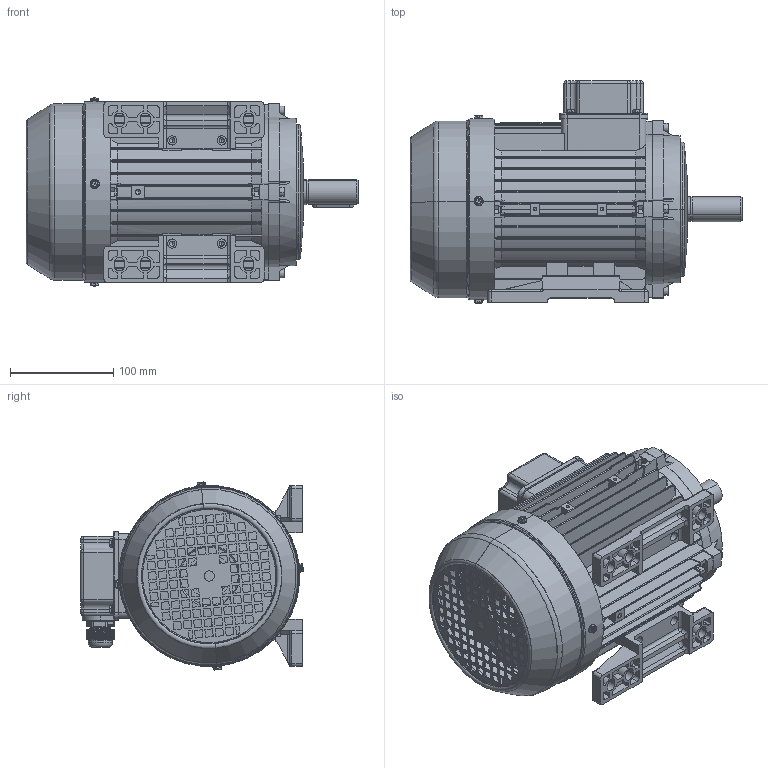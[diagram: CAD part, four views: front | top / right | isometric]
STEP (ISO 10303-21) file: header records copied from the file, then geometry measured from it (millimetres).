
FILE_DESCRIPTION (( 'STEP AP203' ), '1' );
FILE_NAME ('MSL90SL assembly B3.STEP', '2017-11-26T09:44:50', ( 'user' ), ( 'china' ), 'SwSTEP 2.0', 'SolidWorks 2016', '' );
FILE_SCHEMA (( 'CONFIG_CONTROL_DESIGN' ));
Length unit declared in the file: millimetre
Products named in the file (16): M90傷裔B3_Post; M20 cable gland; M90M菁褐_Right; GB-T 5780-2000 M5_020; MSL80-90堤盄碟_MSL80-90; MSL80-90堤盄碟蚾饜; M90-Shaft drive end; MSL90-儂褲; M90M菁褐_Left; MSL90SL assembly B3; M90傷裔B3_Drive; M90瑞欶_082; GB-T 70.1-2000 M5_20; GB-T 29.2-1988 M4鞠褒坋趼湍菜_05; MS90 綴裔瑞欶郪磁; GB-T 29.2-1988 M4鞠褒坋趼湍菜_08
Assembly tree (27 placements, depth 3):
  MSL90SL assembly B3
    MSL90-儂褲
    MS90 綴裔瑞欶郪磁
      M90傷裔B3_Post
      M90瑞欶_082
      GB-T 29.2-1988 M4鞠褒坋趼湍菜_08  x4
    MSL80-90堤盄碟蚾饜
      MSL80-90堤盄碟_MSL80-90
      GB-T 29.2-1988 M4鞠褒坋趼湍菜_05  x4
      M20 cable gland
    M90傷裔B3_Drive
    M90-Shaft drive end
    GB-T 70.1-2000 M5_20  x4
    GB-T 5780-2000 M5_020  x4
    M90M菁褐_Left
    M90M菁褐_Right
Bounding box: 321.5 x 215.55 x 182.1 mm (x, y, z)
Volume: 955981.4 mm3; surface area: 667853.4 mm2
Topology: 25 solids, 25 shells, 3461 faces, 8921 edges, 5556 vertices
Faces by surface type: plane 1756, cylinder 1051, cone 247, bspline 212, torus 183, sphere 12
Entity records: 117366 total; most frequent: CARTESIAN_POINT 41673, ORIENTED_EDGE 15998, DIRECTION 14498, EDGE_CURVE 7999, VERTEX_POINT 5079, AXIS2_PLACEMENT_3D 4903, VECTOR 4692, LINE 4692
